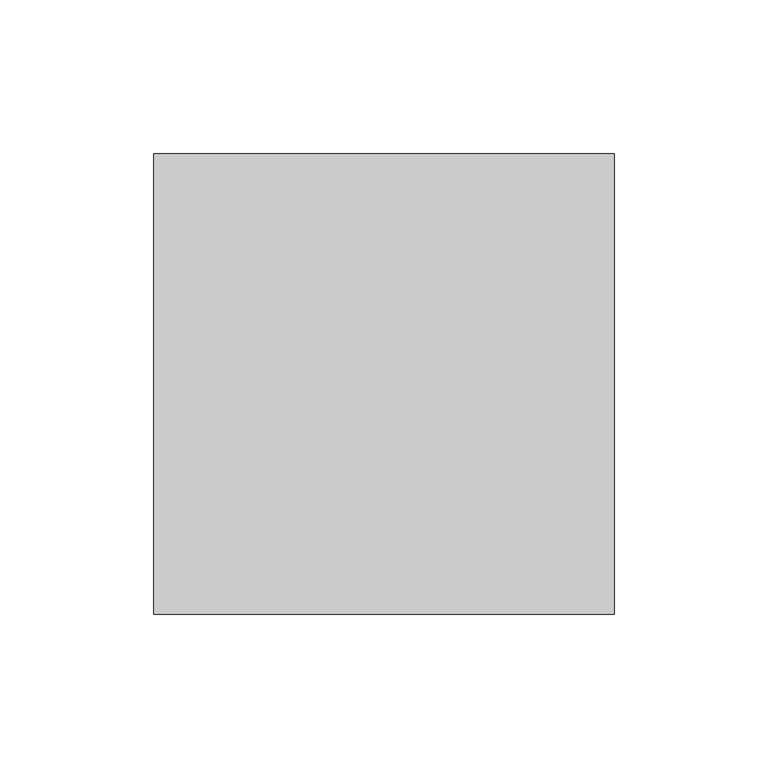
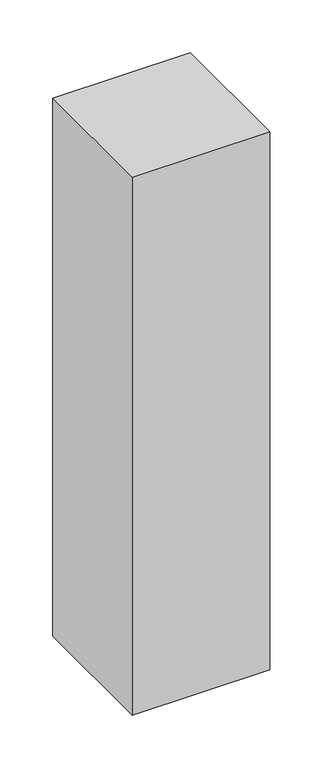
"""IFC4 building model written with IfcOpenShell, lengths in millimetres: proxy geometry, Брус : 150х150."""

from ifc_helpers import new_model, si_unit, origin, origin_with_axes, place, context, project, spatial, polyline, outline, extrude, source, transform, mapped, element, save


def generic_models_d80d0d0e(model_context):
    return source(origin(), model_context, "Body", "SweptSolid", [
        extrude(outline(polyline([(150.0, 0.0), (0.0, 0.0), (0.0, 150.0), (150.0, 150.0), (150.0, 0.0)])), origin_with_axes(), (0.0, 0.0, 1.0), 620.0),
    ])


if __name__ == "__main__":
    model = new_model("IFC4")
    model_context = context("Model", 3, world=origin())
    ifc_project = project(units=[si_unit("LENGTHUNIT", "METRE", prefix="MILLI")], contexts=[model_context])
    site = spatial("IfcSite", under=ifc_project)
    building = spatial("IfcBuilding", under=site)
    placement = place(None, origin())
    generic_models_shape = generic_models_d80d0d0e(model_context)
    element("IfcBuildingElementProxy", 1, Name="Брус : 150х150", ObjectType="Брус : 150х150", at=placement, inside=building, context=model_context, shape_type="MappedRepresentation", body=[
        mapped(generic_models_shape, transform((0.0, 0.0, 0.0), x_axis=(1.0, 0.0, 0.0), y_axis=(0.0, 1.0, 0.0), z_axis=(0.0, 0.0, 1.0))),
    ])
    save(model, "model.ifc")
